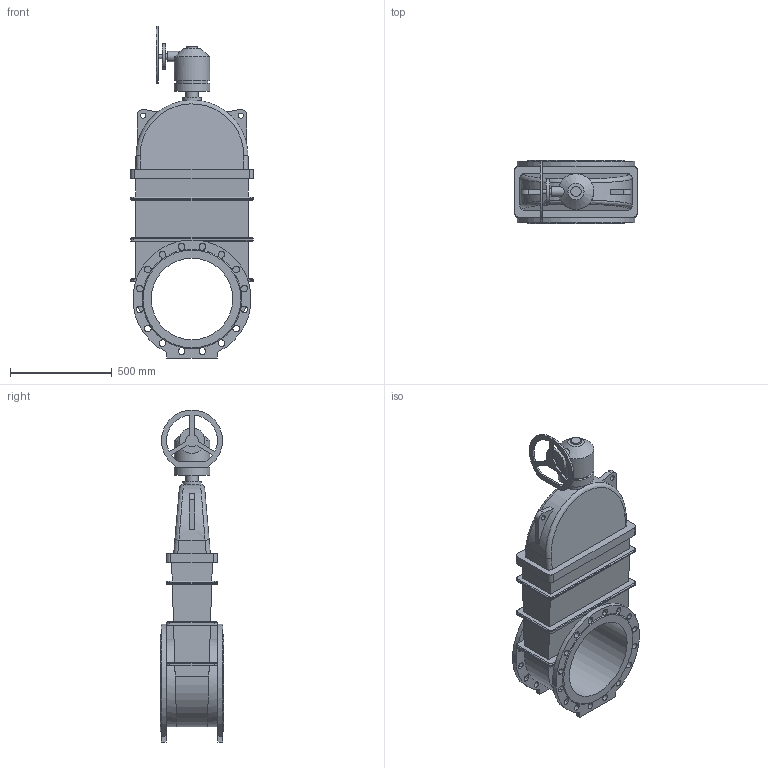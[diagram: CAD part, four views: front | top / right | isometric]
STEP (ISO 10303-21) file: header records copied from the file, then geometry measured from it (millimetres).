
FILE_DESCRIPTION(('STEP AP203'), '1');
FILE_NAME('Çàäâèæêà 47GV.Z DN400 PN10_PN16 + ðåäóêòîð ñ ìàõîâèêîì', '', ('UNSPECIFIED'), ('UNSPECIFIED'), 'ASCON STEP Converter 1.6', 'ASCON Math Kernel', '');
FILE_SCHEMA(('CONFIG_CONTROL_DESIGN'));
Length unit declared in the file: millimetre
Bounding box: 600 x 310 x 1630 mm (x, y, z)
Volume: 99582748 mm3; surface area: 3180836.4 mm2
Topology: 1 solids, 1 shells, 345 faces, 992 edges, 645 vertices
Faces by surface type: plane 173, cylinder 147, bspline 22, cone 3
Full cylindrical faces by diameter (mm): 14 x4, 18 x4, 20 x1, 25 x2, 30 x1, 50 x2, 60 x1, 90 x1, 125 x1, 155 x1, 175 x2, 400 x1
Entity records: 18117 total; most frequent: CARTESIAN_POINT 6305, ORIENTED_EDGE 1936, DIRECTION 1820, EDGE_CURVE 968, AXIS2_PLACEMENT_3D 646, VERTEX_POINT 645, LINE 528, VECTOR 528
